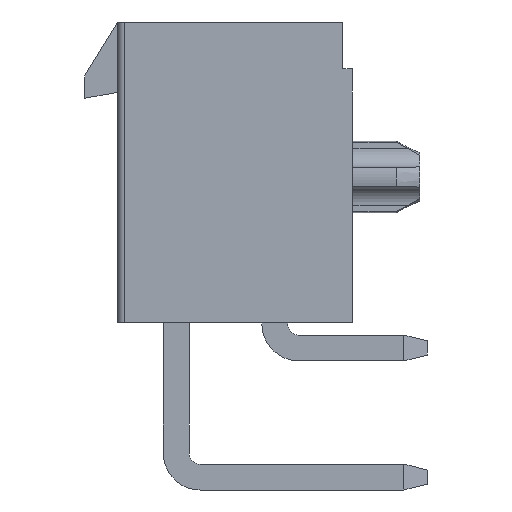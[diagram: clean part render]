
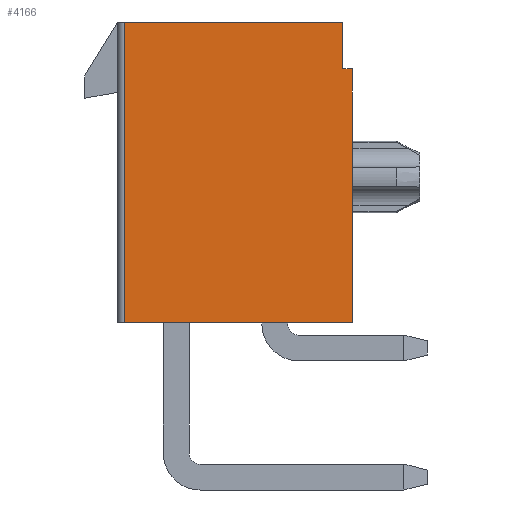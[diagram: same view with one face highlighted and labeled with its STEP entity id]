
A CAD part, left-side view. The second image highlights one B-rep face of the part: STEP entity #4166.
In plain terms, the highlighted planar face has unit normal (-1, 0, 0).
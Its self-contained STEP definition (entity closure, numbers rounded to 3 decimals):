
#45=DIRECTION('',(0.,1.,0.));
#46=VECTOR('',#45,9.3);
#47=CARTESIAN_POINT('',(12.6,3.27,-2.681));
#48=LINE('',#47,#46);
#133=DIRECTION('',(0.,0.,-1.));
#134=VECTOR('',#133,12.8);
#135=CARTESIAN_POINT('',(12.6,12.57,-2.681));
#136=LINE('',#135,#134);
#142=DIRECTION('',(0.,-1.,0.));
#143=VECTOR('',#142,9.7);
#144=CARTESIAN_POINT('',(12.6,12.57,-15.481));
#145=LINE('',#144,#143);
#499=DIRECTION('',(0.,0.,1.));
#500=VECTOR('',#499,2.);
#501=CARTESIAN_POINT('',(12.6,3.27,-4.681));
#502=LINE('',#501,#500);
#703=DIRECTION('',(0.,1.,0.));
#704=VECTOR('',#703,0.4);
#705=CARTESIAN_POINT('',(12.6,2.87,-4.681));
#706=LINE('',#705,#704);
#719=DIRECTION('',(0.,0.,1.));
#720=VECTOR('',#719,10.8);
#721=CARTESIAN_POINT('',(12.6,2.87,-15.481));
#722=LINE('',#721,#720);
#2949=CARTESIAN_POINT('',(12.6,12.57,-2.681));
#2951=VERTEX_POINT('',#2949);
#2969=CARTESIAN_POINT('',(12.6,3.27,-2.681));
#2970=VERTEX_POINT('',#2969);
#3012=CARTESIAN_POINT('',(12.6,12.57,-15.481));
#3014=VERTEX_POINT('',#3012);
#3015=CARTESIAN_POINT('',(12.6,2.87,-15.481));
#3016=VERTEX_POINT('',#3015);
#3187=CARTESIAN_POINT('',(12.6,3.27,-4.681));
#3188=VERTEX_POINT('',#3187);
#3189=CARTESIAN_POINT('',(12.6,2.87,-4.681));
#3190=VERTEX_POINT('',#3189);
#4150=CARTESIAN_POINT('',(12.6,7.72,-9.081));
#4151=DIRECTION('',(1.,0.,0.));
#4152=DIRECTION('',(0.,-1.,0.));
#4153=AXIS2_PLACEMENT_3D('',#4150,#4151,#4152);
#4154=PLANE('',#4153);
#4155=ORIENTED_EDGE('',*,*,#3944,.F.);
#4156=ORIENTED_EDGE('',*,*,#3881,.F.);
#4158=ORIENTED_EDGE('',*,*,#4157,.F.);
#4160=ORIENTED_EDGE('',*,*,#4159,.F.);
#4162=ORIENTED_EDGE('',*,*,#4161,.F.);
#4163=ORIENTED_EDGE('',*,*,#3955,.F.);
#4164=EDGE_LOOP('',(#4155,#4156,#4158,#4160,#4162,#4163));
#4165=FACE_OUTER_BOUND('',#4164,.F.);
#4166=ADVANCED_FACE('',(#4165),#4154,.F.);
#3881=EDGE_CURVE('',#2970,#2951,#48,.T.);
#3944=EDGE_CURVE('',#2951,#3014,#136,.T.);
#3955=EDGE_CURVE('',#3014,#3016,#145,.T.);
#4157=EDGE_CURVE('',#3188,#2970,#502,.T.);
#4159=EDGE_CURVE('',#3190,#3188,#706,.T.);
#4161=EDGE_CURVE('',#3016,#3190,#722,.T.);
